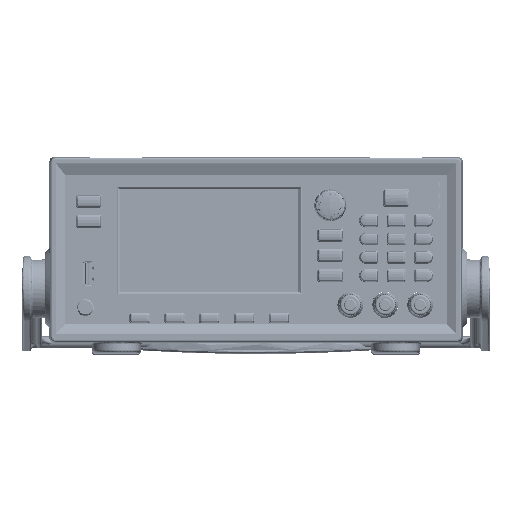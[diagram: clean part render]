
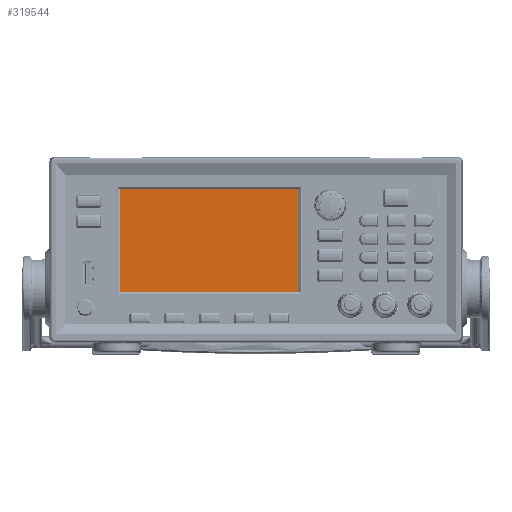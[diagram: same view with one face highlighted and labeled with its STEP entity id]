
A CAD part, top view. The second image highlights one B-rep face of the part: STEP entity #319544.
In plain terms, the highlighted planar face has unit normal (0, 0, 1).
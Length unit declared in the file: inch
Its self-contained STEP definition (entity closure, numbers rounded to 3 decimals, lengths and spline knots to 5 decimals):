
#319417=DIRECTION('',(0.,-1.,0.));
#319418=VECTOR('',#319417,2.571);
#319419=CARTESIAN_POINT('',(-2.114,1.2855,0.075));
#319420=LINE('',#319419,#319418);
#319424=DIRECTION('',(-1.,0.,0.));
#319425=VECTOR('',#319424,4.228);
#319426=CARTESIAN_POINT('',(2.114,1.2855,0.075));
#319427=LINE('',#319426,#319425);
#319431=DIRECTION('',(0.,1.,0.));
#319432=VECTOR('',#319431,2.571);
#319433=CARTESIAN_POINT('',(2.114,-1.2855,0.075));
#319434=LINE('',#319433,#319432);
#319438=DIRECTION('',(1.,0.,0.));
#319439=VECTOR('',#319438,4.228);
#319440=CARTESIAN_POINT('',(-2.114,-1.2855,0.075));
#319441=LINE('',#319440,#319439);
#319453=CARTESIAN_POINT('',(-2.114,1.2855,0.075));
#319454=CARTESIAN_POINT('',(-2.114,-1.2855,0.075));
#319455=VERTEX_POINT('',#319453);
#319456=VERTEX_POINT('',#319454);
#319457=CARTESIAN_POINT('',(2.114,-1.2855,0.075));
#319458=VERTEX_POINT('',#319457);
#319459=CARTESIAN_POINT('',(2.114,1.2855,0.075));
#319460=VERTEX_POINT('',#319459);
#319533=CARTESIAN_POINT('',(0.,0.,0.075));
#319534=DIRECTION('',(0.,0.,1.));
#319535=DIRECTION('',(1.,0.,0.));
#319536=AXIS2_PLACEMENT_3D('',#319533,#319534,#319535);
#319537=PLANE('',#319536);
#319538=ORIENTED_EDGE('',*,*,#319485,.F.);
#319539=ORIENTED_EDGE('',*,*,#319500,.F.);
#319540=ORIENTED_EDGE('',*,*,#319514,.F.);
#319541=ORIENTED_EDGE('',*,*,#319527,.F.);
#319542=EDGE_LOOP('',(#319538,#319539,#319540,#319541));
#319543=FACE_OUTER_BOUND('',#319542,.F.);
#319544=ADVANCED_FACE('',(#319543),#319537,.T.);
#319485=EDGE_CURVE('',#319455,#319456,#319420,.T.);
#319500=EDGE_CURVE('',#319460,#319455,#319427,.T.);
#319514=EDGE_CURVE('',#319458,#319460,#319434,.T.);
#319527=EDGE_CURVE('',#319456,#319458,#319441,.T.);
